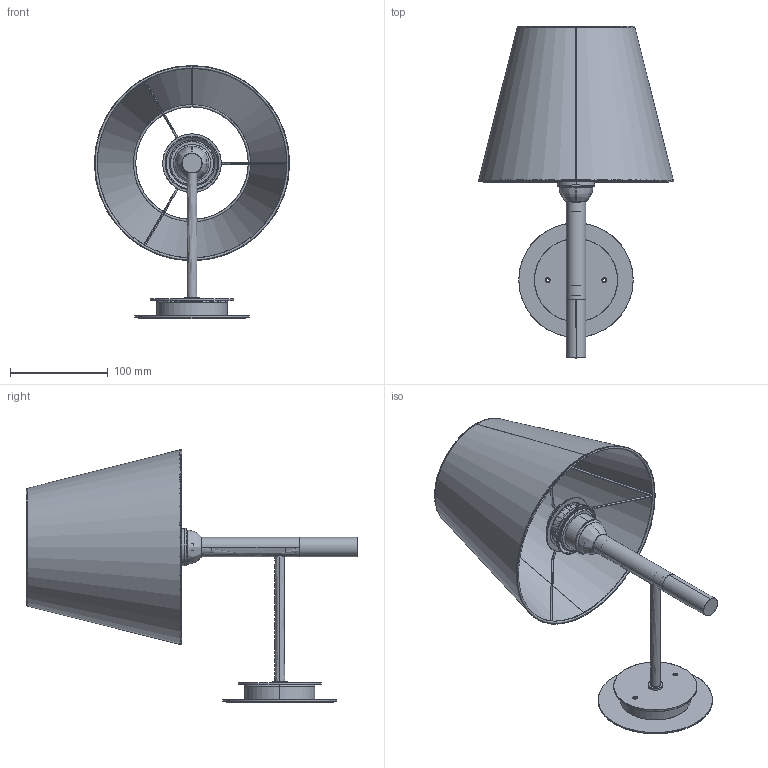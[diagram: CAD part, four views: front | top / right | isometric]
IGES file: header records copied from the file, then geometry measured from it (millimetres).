
Start section: SolidWorks IGES file using analytic representation for surfaces
Global section: file name: C:\Users\berta.gumma\OneDrive - santa &cole\Desktop\BC2 UL.IGS; native system: SolidWorks 2021; preprocessor: SolidWorks 2021; author: berta.gumma; date: 230918.111022; units: millimetre
Bounding box: 200 x 339.65 x 259 mm (x, y, z)
Surface area: 309961.5 mm2 (no closed solid volume)
Topology: 0 solids, 0 shells, 1040 faces, 12138 edges, 12132 vertices
Faces by surface type: bspline 539, revolution 501
